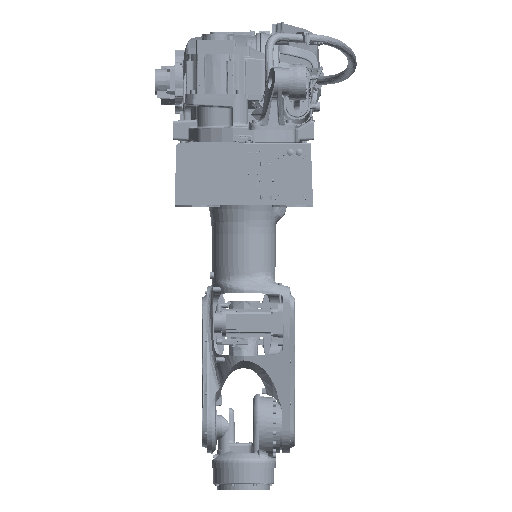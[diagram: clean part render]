
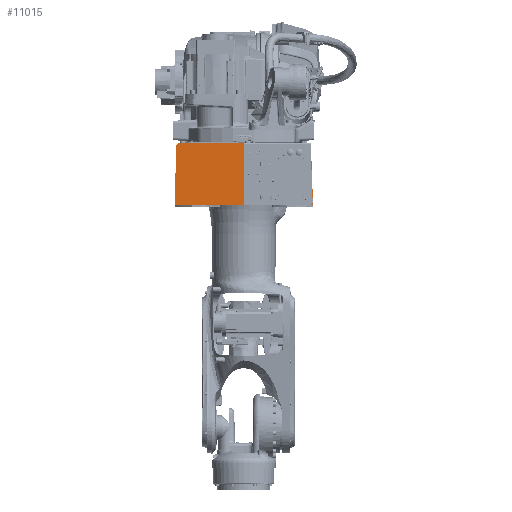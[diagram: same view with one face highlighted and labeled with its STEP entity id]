
A CAD part, front view. The second image highlights one B-rep face of the part: STEP entity #11015.
In plain terms, the highlighted planar face has unit normal (0, -1, 0).
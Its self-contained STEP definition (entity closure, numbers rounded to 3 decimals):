
#10012=CARTESIAN_POINT('Vertex',(243.08,-500.,223.174)) ;
#10015=CARTESIAN_POINT('Line Origine',(246.54,-500.,124.087)) ;
#10019=CARTESIAN_POINT('Vertex',(250.,-500.,25.)) ;
#10100=CARTESIAN_POINT('Vertex',(-243.08,-500.,223.174)) ;
#10103=CARTESIAN_POINT('Axis2P3D Location',(-238.083,-500.,223.)) ;
#10107=CARTESIAN_POINT('Vertex',(-238.083,-500.,228.)) ;
#10127=CARTESIAN_POINT('Line Origine',(0.,-500.,228.)) ;
#10131=CARTESIAN_POINT('Vertex',(238.083,-500.,228.)) ;
#10151=CARTESIAN_POINT('Axis2P3D Location',(238.083,-500.,223.)) ;
#10936=CARTESIAN_POINT('Line Origine',(249.651,-500.,15.)) ;
#10940=CARTESIAN_POINT('Vertex',(249.302,-500.,5.)) ;
#10981=CARTESIAN_POINT('Axis2P3D Location',(-250.,-500.,0.)) ;
#10986=CARTESIAN_POINT('Line Origine',(-246.54,-500.,124.087)) ;
#10990=CARTESIAN_POINT('Vertex',(-250.,-500.,25.)) ;
#10993=CARTESIAN_POINT('Line Origine',(-249.651,-500.,15.)) ;
#10997=CARTESIAN_POINT('Vertex',(-249.302,-500.,5.)) ;
#11000=CARTESIAN_POINT('Line Origine',(0.,-500.,5.)) ;
#10016=DIRECTION('Vector Direction',(-0.035,0.,0.999)) ;
#10104=DIRECTION('Axis2P3D Direction',(0.,-1.,0.)) ;
#10128=DIRECTION('Vector Direction',(1.,0.,0.)) ;
#10152=DIRECTION('Axis2P3D Direction',(0.,-1.,0.)) ;
#10937=DIRECTION('Vector Direction',(-0.035,0.,-0.999)) ;
#10982=DIRECTION('Axis2P3D Direction',(0.,-1.,0.)) ;
#10983=DIRECTION('Axis2P3D XDirection',(1.,0.,0.)) ;
#10987=DIRECTION('Vector Direction',(0.035,0.,0.999)) ;
#10994=DIRECTION('Vector Direction',(0.035,0.,-0.999)) ;
#11001=DIRECTION('Vector Direction',(1.,0.,0.)) ;
#10105=AXIS2_PLACEMENT_3D('Circle Axis2P3D',#10103,#10104,$) ;
#10153=AXIS2_PLACEMENT_3D('Circle Axis2P3D',#10151,#10152,$) ;
#10984=AXIS2_PLACEMENT_3D('Plane Axis2P3D',#10981,#10982,#10983) ;
#11006=ORIENTED_EDGE('',*,*,#10942,.T.) ;
#11007=ORIENTED_EDGE('',*,*,#10021,.T.) ;
#11008=ORIENTED_EDGE('',*,*,#10155,.F.) ;
#11009=ORIENTED_EDGE('',*,*,#10133,.F.) ;
#11010=ORIENTED_EDGE('',*,*,#10109,.F.) ;
#11011=ORIENTED_EDGE('',*,*,#10992,.F.) ;
#11012=ORIENTED_EDGE('',*,*,#10999,.T.) ;
#11013=ORIENTED_EDGE('',*,*,#11004,.T.) ;
#10017=VECTOR('Line Direction',#10016,1.) ;
#10129=VECTOR('Line Direction',#10128,1.) ;
#10938=VECTOR('Line Direction',#10937,1.) ;
#10988=VECTOR('Line Direction',#10987,1.) ;
#10995=VECTOR('Line Direction',#10994,1.) ;
#11002=VECTOR('Line Direction',#11001,1.) ;
#11015=ADVANCED_FACE('BASE',(#11014),#10985,.T.) ;
#10106=CIRCLE('generated circle',#10105,5.) ;
#10154=CIRCLE('generated circle',#10153,5.) ;
#10021=EDGE_CURVE('',#10020,#10013,#10018,.T.) ;
#10109=EDGE_CURVE('',#10101,#10108,#10106,.F.) ;
#10133=EDGE_CURVE('',#10108,#10132,#10130,.T.) ;
#10155=EDGE_CURVE('',#10132,#10013,#10154,.F.) ;
#10942=EDGE_CURVE('',#10941,#10020,#10939,.F.) ;
#10992=EDGE_CURVE('',#10991,#10101,#10989,.T.) ;
#10999=EDGE_CURVE('',#10991,#10998,#10996,.T.) ;
#11004=EDGE_CURVE('',#10998,#10941,#11003,.T.) ;
#11005=EDGE_LOOP('',(#11006,#11007,#11008,#11009,#11010,#11011,#11012,#11013)) ;
#11014=FACE_OUTER_BOUND('',#11005,.T.) ;
#10018=LINE('Line',#10015,#10017) ;
#10130=LINE('Line',#10127,#10129) ;
#10939=LINE('Line',#10936,#10938) ;
#10989=LINE('Line',#10986,#10988) ;
#10996=LINE('Line',#10993,#10995) ;
#11003=LINE('Line',#11000,#11002) ;
#10985=PLANE('',#10984) ;
#10013=VERTEX_POINT('',#10012) ;
#10020=VERTEX_POINT('',#10019) ;
#10101=VERTEX_POINT('',#10100) ;
#10108=VERTEX_POINT('',#10107) ;
#10132=VERTEX_POINT('',#10131) ;
#10941=VERTEX_POINT('',#10940) ;
#10991=VERTEX_POINT('',#10990) ;
#10998=VERTEX_POINT('',#10997) ;
